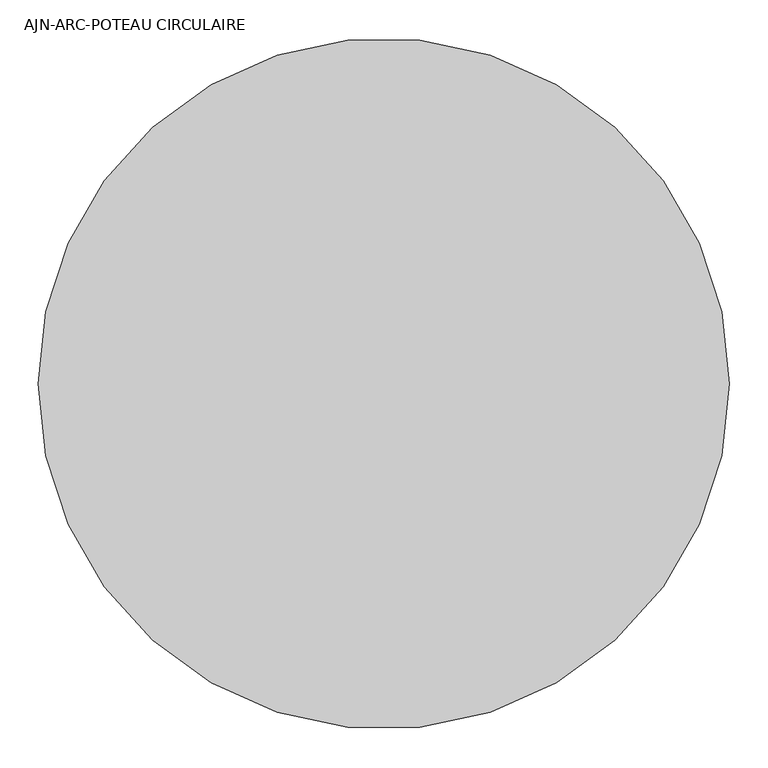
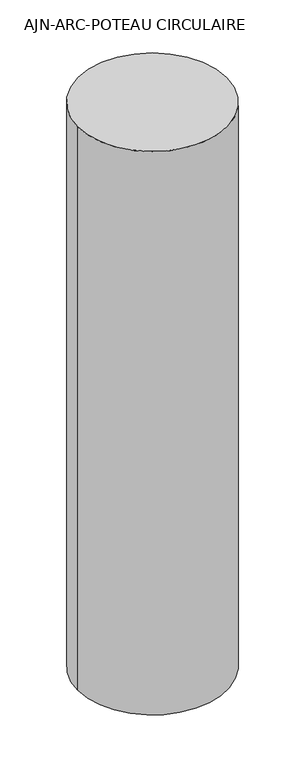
"""IFC4 building model written with IfcOpenShell, lengths in millimetres: column geometry, AJN-ARC-POTEAU CIRCULAIRE : ø90."""

import ifcopenshell
import ifcopenshell.guid

model = None  # the IFC model being written
_history = None  # IfcOwnerHistory: only IFC2X3 demands one
_inside = {}  # id of a spatial element -> (the spatial element, [elements in it])
_under = {}  # id of a project, library or spatial element -> (it, [spatial elements below it])
_declared = {}  # id of a project -> (the project, [libraries it declares])
_typed = {}  # id of a type object -> (the type object, [elements of that type])
_made_of = {}  # id of a material, layer set ... -> (it, [elements and type objects made of it])


def new_model(schema):
    """Start an empty IFC model of exactly this schema.

    Asked for "IFC4X3", IfcOpenShell would pick the latest addendum, in which some entities
    have other attributes; the version numbers below select the first issue.
    IFC2X3 requires an IfcOwnerHistory on every rooted entity: one is made here for all.
    """
    global model, _history
    if schema == "IFC4X3":
        model = ifcopenshell.file(schema_version=(4, 3, 0, 0))
    else:
        model = ifcopenshell.file(schema=schema)
    _inside.clear()
    _under.clear()
    _declared.clear()
    _typed.clear()
    _made_of.clear()
    _history = None
    if model.schema == "IFC2X3":
        org = make("IfcOrganization", Name="unknown")
        user = make(
            "IfcPersonAndOrganization",
            ThePerson=make("IfcPerson", FamilyName="unknown"),
            TheOrganization=org,
        )
        app = make(
            "IfcApplication",
            ApplicationDeveloper=org,
            Version="unknown",
            ApplicationFullName="unknown",
            ApplicationIdentifier="unknown",
        )
        _history = make(
            "IfcOwnerHistory",
            OwningUser=user,
            OwningApplication=app,
            ChangeAction="ADDED",
            CreationDate=0,
        )
    return model


def make(cls, **values):
    """One entity of the class cls with the attributes given. An attribute that is None is left unset."""
    return model.create_entity(
        cls, **{name: value for name, value in values.items() if value is not None}
    )


def rooted(cls, **values):
    """An entity with a GlobalId (a new one), such as an element, a storey or a relation."""
    return make(cls, GlobalId=ifcopenshell.guid.new(), OwnerHistory=_history, **values)


def si_unit(unit_type, name, prefix=None):
    """IfcSIUnit, for example si_unit("LENGTHUNIT", "METRE", prefix="MILLI")."""
    return make("IfcSIUnit", UnitType=unit_type, Prefix=prefix, Name=name)


def assignment(units):
    """IfcUnitAssignment: the units of a project."""
    return None if units is None else make("IfcUnitAssignment", Units=units)


def point(xyz):
    """IfcCartesianPoint."""
    return None if xyz is None else make("IfcCartesianPoint", Coordinates=xyz)


def direction(xyz):
    """IfcDirection."""
    return None if xyz is None else make("IfcDirection", DirectionRatios=xyz)


def frame(location, z_axis=None, x_axis=None):
    """IfcAxis2Placement3D, a coordinate frame: its origin and axes. An axis left out is left unset."""
    return make(
        "IfcAxis2Placement3D",
        Location=point(location),
        Axis=direction(z_axis),
        RefDirection=direction(x_axis),
    )


def frame_2d(location, x_axis=None):
    """IfcAxis2Placement2D, a coordinate frame in the plane: its origin and x axis."""
    return make(
        "IfcAxis2Placement2D", Location=point(location), RefDirection=direction(x_axis)
    )


def origin():
    """The frame at (0, 0, 0) with its axes left unset."""
    return frame((0.0, 0.0, 0.0))


def origin_2d():
    """The frame at (0, 0) in the plane with its x axis left unset."""
    return frame_2d((0.0, 0.0))


def place(relative_to, where):
    """IfcLocalPlacement: puts the frame where relative to a parent placement (None: the world)."""
    return make(
        "IfcLocalPlacement", PlacementRelTo=relative_to, RelativePlacement=where
    )


def context(
    kind, dimensions, precision=None, world=None, true_north=None, identifier=None
):
    """IfcGeometricRepresentationContext, for example the 3D "Model" context."""
    return make(
        "IfcGeometricRepresentationContext",
        ContextIdentifier=identifier,
        ContextType=kind,
        CoordinateSpaceDimension=dimensions,
        Precision=precision,
        WorldCoordinateSystem=world,
        TrueNorth=true_north,
    )


def project(units=None, contexts=None):
    """IfcProject with its units and contexts."""
    return rooted(
        "IfcProject",
        Name="project",
        RepresentationContexts=contexts,
        UnitsInContext=assignment(units),
    )


def spatial(cls, under=None, at=None, **own):
    """A site, building, storey or space (cls), placed at a placement, below another one or the project."""
    s = rooted(cls, ObjectPlacement=at, **own)
    if under is not None:
        _under.setdefault(under.id(), (under, []))[1].append(s)
    return s


def circle_curve(where, radius):
    """IfcCircle in the frame where."""
    return make("IfcCircle", Position=where, Radius=radius)


def trimmed(basis, trim1, trim2, sense, master):
    """IfcTrimmedCurve: the piece of a basis curve between two trims."""
    return make(
        "IfcTrimmedCurve",
        BasisCurve=basis,
        Trim1=trim1,
        Trim2=trim2,
        SenseAgreement=sense,
        MasterRepresentation=master,
    )


def segment(curve, same_sense, transition):
    """IfcCompositeCurveSegment."""
    return make(
        "IfcCompositeCurveSegment",
        Transition=transition,
        SameSense=same_sense,
        ParentCurve=curve,
    )


def composite_curve(segments, self_intersect=None):
    """IfcCompositeCurve: segments joined end to end."""
    return make("IfcCompositeCurve", Segments=segments, SelfIntersect=self_intersect)


def outline(outer, holes=None, kind="AREA"):
    """IfcArbitraryClosedProfileDef: a profile drawn as a closed curve; with holes, ...WithVoids."""
    if holes is None:
        return make("IfcArbitraryClosedProfileDef", ProfileType=kind, OuterCurve=outer)
    return make(
        "IfcArbitraryProfileDefWithVoids",
        ProfileType=kind,
        OuterCurve=outer,
        InnerCurves=holes,
    )


def extrude(swept, where, along, depth):
    """IfcExtrudedAreaSolid: the profile swept, set in the frame where, extruded along a direction by depth."""
    return make(
        "IfcExtrudedAreaSolid",
        SweptArea=swept,
        Position=where,
        ExtrudedDirection=direction(along),
        Depth=depth,
    )


def shape(context_of_items, identifier, shape_type, items):
    """IfcShapeRepresentation: the items that make up one representation, for example the "Body"."""
    return make(
        "IfcShapeRepresentation",
        ContextOfItems=context_of_items,
        RepresentationIdentifier=identifier,
        RepresentationType=shape_type,
        Items=items,
    )


def source(mapping_origin, context_of_items, identifier, shape_type, items):
    """IfcRepresentationMap: a shape defined once, which mapped items show again and again."""
    return make(
        "IfcRepresentationMap",
        MappingOrigin=mapping_origin,
        MappedRepresentation=shape(context_of_items, identifier, shape_type, items),
    )


def transform(
    local_origin,
    x_axis=None,
    y_axis=None,
    z_axis=None,
    scale=None,
    scale2=None,
    scale3=None,
    uniform=True,
):
    """IfcCartesianTransformationOperator3D, or its non-uniform kind. x_axis, y_axis, z_axis: its Axis1, 2, 3."""
    if uniform:
        return make(
            "IfcCartesianTransformationOperator3D",
            Axis1=direction(x_axis),
            Axis2=direction(y_axis),
            LocalOrigin=point(local_origin),
            Scale=scale,
            Axis3=direction(z_axis),
        )
    return make(
        "IfcCartesianTransformationOperator3DnonUniform",
        Axis1=direction(x_axis),
        Axis2=direction(y_axis),
        LocalOrigin=point(local_origin),
        Scale=scale,
        Axis3=direction(z_axis),
        Scale2=scale2,
        Scale3=scale3,
    )


def mapped(mapping_source, mapping_target):
    """IfcMappedItem: shows the shape of a source again, moved by a transform."""
    return make(
        "IfcMappedItem", MappingSource=mapping_source, MappingTarget=mapping_target
    )


def made_of(thing, what):
    """Note that an element or type object is made of a material, layer set ...; save() writes the relation."""
    if what is not None:
        _made_of.setdefault(what.id(), (what, []))[1].append(thing)
    return thing


def element(
    cls,
    number,
    at=None,
    inside=None,
    cuts=None,
    type_object=None,
    material=None,
    context=None,
    identifier="Body",
    shape_type=None,
    held_by="IfcProductDefinitionShape",
    body=None,
    shapes=None,
    **own,
):
    """One element of the class cls, such as IfcWall. Its Tag is "e" and its number.

    at: its placement. inside: the storey or other place that contains it. cuts: it is an
    opening in that element (IfcRelVoidsElement). A single representation is given by context,
    identifier, shape_type and body (its items); several are given by shapes. held_by: the class
    of the entity that holds the representations. save() writes the other relations.
    """
    e = rooted(cls, Tag="e%d" % number, ObjectPlacement=at, **own)
    if body is not None:
        shapes = [shape(context, identifier, shape_type, body)]
    if shapes is not None:
        e.Representation = make(held_by, Representations=shapes)
    if inside is not None:
        _inside.setdefault(inside.id(), (inside, []))[1].append(e)
    if cuts is not None:
        rooted(
            "IfcRelVoidsElement", RelatingBuildingElement=cuts, RelatedOpeningElement=e
        )
    if type_object is not None:
        _typed.setdefault(type_object.id(), (type_object, []))[1].append(e)
    return made_of(e, material)


def aggregate(whole, parts):
    """IfcRelAggregates: a whole, such as a stair, and the parts it consists of."""
    return rooted("IfcRelAggregates", RelatingObject=whole, RelatedObjects=parts)


def save(model, path):
    """Write the relations noted so far, then the file.

    IfcRelAggregates (storeys below a building ...), IfcRelContainedInSpatialStructure (elements
    in a storey), IfcRelDefinesByType, IfcRelAssociatesMaterial and IfcRelDeclares: one each for
    every whole, place, type object, material and project.
    """
    for whole, parts in _under.values():
        aggregate(whole, parts)
    for where, things in _inside.values():
        rooted(
            "IfcRelContainedInSpatialStructure",
            RelatedElements=things,
            RelatingStructure=where,
        )
    for kind, things in _typed.values():
        rooted("IfcRelDefinesByType", RelatedObjects=things, RelatingType=kind)
    for what, things in _made_of.values():
        rooted("IfcRelAssociatesMaterial", RelatedObjects=things, RelatingMaterial=what)
    for by, libraries in _declared.values():
        rooted("IfcRelDeclares", RelatingContext=by, RelatedDefinitions=libraries)
    model.write(path)


def ajn_arc_poteau_circulaire_e6a696d0(model_context):
    return source(origin(), model_context, "Body", "SweptSolid", [
        extrude(outline(composite_curve([segment(trimmed(circle_curve(origin_2d(), 450.0), [point((-450.0, 0.0))], [point((450.0, 0.0))], False, "CARTESIAN"), True, "CONTINUOUS"), segment(trimmed(circle_curve(origin_2d(), 450.0), [point((450.0, 0.0))], [point((-450.0, 0.0))], False, "CARTESIAN"), True, "CONTINUOUS")], self_intersect=False)), frame((0.0, 0.0, 49599.9999686), z_axis=(0.0, 0.0, 1.0), x_axis=(1.0, 0.0, 0.0)), (0.0, 0.0, 1.0), 3600.0),
    ])


if __name__ == "__main__":
    model = new_model("IFC4")
    model_context = context("Model", 3, world=origin())
    ifc_project = project(units=[si_unit("LENGTHUNIT", "METRE", prefix="MILLI")], contexts=[model_context])
    site = spatial("IfcSite", under=ifc_project)
    building = spatial("IfcBuilding", under=site)
    placement = place(None, origin())
    ajn_arc_poteau_circulaire_shape = ajn_arc_poteau_circulaire_e6a696d0(model_context)
    element("IfcColumn", 1, ObjectType="AJN-ARC-POTEAU CIRCULAIRE : ø90", at=placement, inside=building, context=model_context, shape_type="MappedRepresentation", body=[
        mapped(ajn_arc_poteau_circulaire_shape, transform((0.0, 0.0, 0.0), x_axis=(1.0, 0.0, 0.0), y_axis=(0.0, 1.0, 0.0), z_axis=(0.0, 0.0, 1.0))),
    ])
    save(model, "model.ifc")
